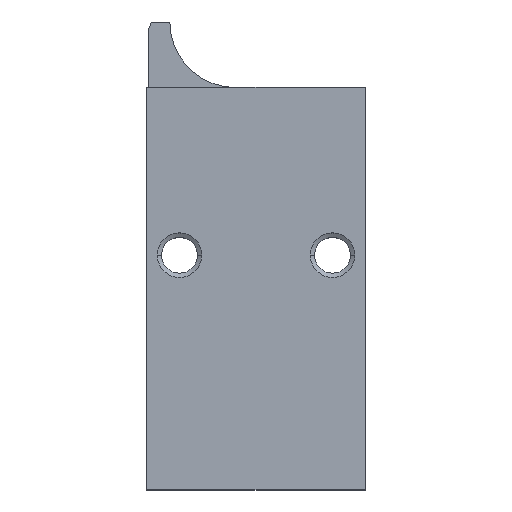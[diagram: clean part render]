
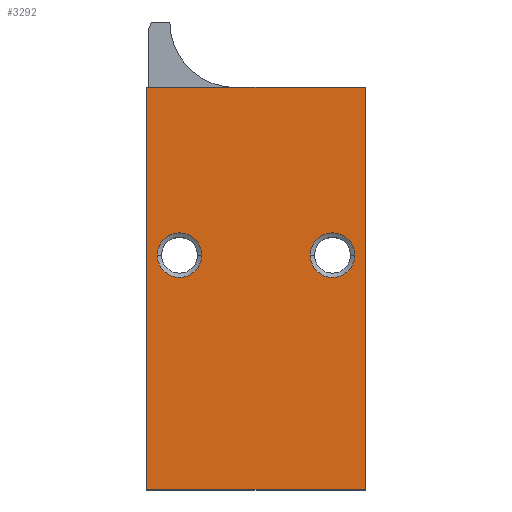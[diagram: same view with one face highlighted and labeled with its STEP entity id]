
A CAD part, top view. The second image highlights one B-rep face of the part: STEP entity #3292.
In plain terms, the highlighted planar face has unit normal (0, 0, 1).
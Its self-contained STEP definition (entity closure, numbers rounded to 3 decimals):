
#197 = EDGE_CURVE ( 'NONE', #3063, #3025, #2638, .T. ) ;
#305 = CARTESIAN_POINT ( 'NONE',  ( 47.6, 53.65, 40. ) ) ;
#321 = CARTESIAN_POINT ( 'NONE',  ( 2.4, 53.65, 40. ) ) ;
#325 = CARTESIAN_POINT ( 'NONE',  ( 50., 0., 40. ) ) ;
#332 = CARTESIAN_POINT ( 'NONE',  ( 50., 92., 40. ) ) ;
#333 = CARTESIAN_POINT ( 'NONE',  ( 0., 0., 40. ) ) ;
#341 = CARTESIAN_POINT ( 'NONE',  ( 12.6, 53.65, 40. ) ) ;
#342 = CARTESIAN_POINT ( 'NONE',  ( 37.4, 53.65, 40. ) ) ;
#431 = EDGE_CURVE ( 'NONE', #3025, #3061, #1807, .T. ) ;
#436 = EDGE_CURVE ( 'NONE', #3061, #3018, #2030, .T. ) ;
#441 = EDGE_CURVE ( 'NONE', #3086, #3052, #574, .T. ) ;
#442 = EDGE_CURVE ( 'NONE', #3054, #3072, #581, .T. ) ;
#574 = CIRCLE ( 'NONE', #622, 5.1 ) ;
#581 = CIRCLE ( 'NONE', #616, 5.1 ) ;
#584 = CARTESIAN_POINT ( 'NONE',  ( 0., 92., 40. ) ) ;
#616 = AXIS2_PLACEMENT_3D ( 'NONE', #2587, #2449, #2529 ) ;
#622 = AXIS2_PLACEMENT_3D ( 'NONE', #2399, #2540, #2524 ) ;
#756 = CIRCLE ( 'NONE', #2849, 5.1 ) ;
#784 = LINE ( 'NONE', #1308, #785 ) ;
#785 = VECTOR ( 'NONE', #1230, 1000. ) ;
#816 = FACE_OUTER_BOUND ( 'NONE', #3405, .T. ) ;
#818 = FACE_BOUND ( 'NONE', #2738, .T. ) ;
#824 = FACE_BOUND ( 'NONE', #3388, .T. ) ;
#1152 = CARTESIAN_POINT ( 'NONE',  ( 42.5, 53.65, 40. ) ) ;
#1206 = DIRECTION ( 'NONE',  ( 0., 0., 1. ) ) ;
#1208 = DIRECTION ( 'NONE',  ( 1., 0., 0. ) ) ;
#1223 = DIRECTION ( 'NONE',  ( 1., 0., 0. ) ) ;
#1224 = DIRECTION ( 'NONE',  ( 0., 0., 1. ) ) ;
#1230 = DIRECTION ( 'NONE',  ( 0., -1., 0. ) ) ;
#1234 = CARTESIAN_POINT ( 'NONE',  ( 7.5, 53.65, 40. ) ) ;
#1308 = CARTESIAN_POINT ( 'NONE',  ( 0., 0., 40. ) ) ;
#1575 = DIRECTION ( 'NONE',  ( 0., 0., -1. ) ) ;
#1582 = CARTESIAN_POINT ( 'NONE',  ( 0., 92., 40. ) ) ;
#1584 = PLANE ( 'NONE',  #1737 ) ;
#1585 = DIRECTION ( 'NONE',  ( -1., 0., 0. ) ) ;
#1737 = AXIS2_PLACEMENT_3D ( 'NONE', #1582, #1575, #1585 ) ;
#1807 = LINE ( 'NONE', #2612, #2045 ) ;
#2029 = VECTOR ( 'NONE', #2528, 1000. ) ;
#2030 = LINE ( 'NONE', #2615, #2029 ) ;
#2045 = VECTOR ( 'NONE', #2522, 1000. ) ;
#2399 = CARTESIAN_POINT ( 'NONE',  ( 42.5, 53.65, 40. ) ) ;
#2449 = DIRECTION ( 'NONE',  ( 0., 0., 1. ) ) ;
#2522 = DIRECTION ( 'NONE',  ( 0., 1., 0. ) ) ;
#2524 = DIRECTION ( 'NONE',  ( 1., 0., 0. ) ) ;
#2528 = DIRECTION ( 'NONE',  ( -1., 0., 0. ) ) ;
#2529 = DIRECTION ( 'NONE',  ( 1., 0., 0. ) ) ;
#2540 = DIRECTION ( 'NONE',  ( 0., 0., 1. ) ) ;
#2587 = CARTESIAN_POINT ( 'NONE',  ( 7.5, 53.65, 40. ) ) ;
#2612 = CARTESIAN_POINT ( 'NONE',  ( 50., 0., 40. ) ) ;
#2615 = CARTESIAN_POINT ( 'NONE',  ( 0., 92., 40. ) ) ;
#2638 = LINE ( 'NONE', #3161, #2641 ) ;
#2641 = VECTOR ( 'NONE', #3081, 1000. ) ;
#2659 = CIRCLE ( 'NONE', #2891, 5.1 ) ;
#2738 = EDGE_LOOP ( 'NONE', ( #2782, #2783 ) ) ;
#2780 = ORIENTED_EDGE ( 'NONE', *, *, #441, .F. ) ;
#2781 = ORIENTED_EDGE ( 'NONE', *, *, #3417, .F. ) ;
#2782 = ORIENTED_EDGE ( 'NONE', *, *, #442, .F. ) ;
#2783 = ORIENTED_EDGE ( 'NONE', *, *, #3431, .F. ) ;
#2784 = ORIENTED_EDGE ( 'NONE', *, *, #3446, .T. ) ;
#2785 = ORIENTED_EDGE ( 'NONE', *, *, #197, .T. ) ;
#2786 = ORIENTED_EDGE ( 'NONE', *, *, #431, .T. ) ;
#2787 = ORIENTED_EDGE ( 'NONE', *, *, #436, .T. ) ;
#2849 = AXIS2_PLACEMENT_3D ( 'NONE', #1234, #1224, #1223 ) ;
#2891 = AXIS2_PLACEMENT_3D ( 'NONE', #1152, #1206, #1208 ) ;
#3018 = VERTEX_POINT ( 'NONE', #584 ) ;
#3025 = VERTEX_POINT ( 'NONE', #325 ) ;
#3052 = VERTEX_POINT ( 'NONE', #342 ) ;
#3054 = VERTEX_POINT ( 'NONE', #341 ) ;
#3061 = VERTEX_POINT ( 'NONE', #332 ) ;
#3063 = VERTEX_POINT ( 'NONE', #333 ) ;
#3072 = VERTEX_POINT ( 'NONE', #321 ) ;
#3081 = DIRECTION ( 'NONE',  ( 1., 0., 0. ) ) ;
#3086 = VERTEX_POINT ( 'NONE', #305 ) ;
#3161 = CARTESIAN_POINT ( 'NONE',  ( 0., 0., 40. ) ) ;
#3292 = ADVANCED_FACE ( 'NONE', ( #824, #818, #816 ), #1584, .F. ) ;
#3388 = EDGE_LOOP ( 'NONE', ( #2780, #2781 ) ) ;
#3405 = EDGE_LOOP ( 'NONE', ( #2784, #2785, #2786, #2787 ) ) ;
#3417 = EDGE_CURVE ( 'NONE', #3052, #3086, #2659, .T. ) ;
#3431 = EDGE_CURVE ( 'NONE', #3072, #3054, #756, .T. ) ;
#3446 = EDGE_CURVE ( 'NONE', #3018, #3063, #784, .T. ) ;
